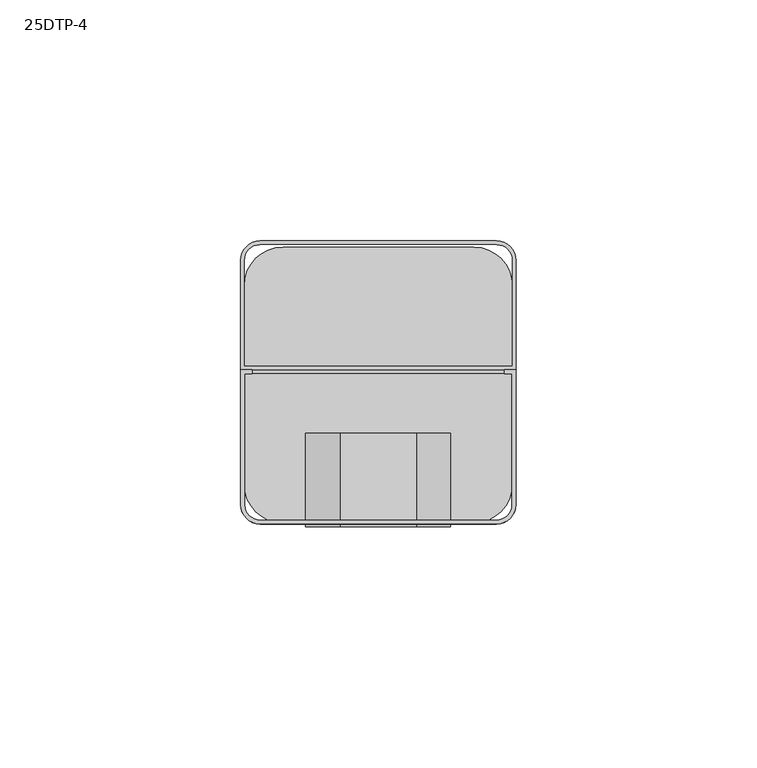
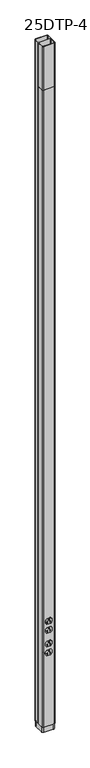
"""IFC4 building model written with IfcOpenShell, lengths in millimetres: proxy geometry, Vertical_Drop_Poles-Wiremold-Steel_Tele-Power_Pole : 25DTP-4."""

from ifc_helpers import new_model, si_unit, point, frame, frame_2d, origin, origin_with_axes, place, context, project, spatial, polyline, circle_curve, trimmed, segment, composite_curve, outline, extrude, source, transform, mapped, element, save


def proxy_25dtp_4_c8c4ca56(model_context):
    return source(origin(), model_context, "Body", "SweptSolid", [
        extrude(outline(composite_curve([segment(polyline([(28.575, 31.25), (28.575, 3.25)]), True, "CONTINUOUS"), segment(trimmed(circle_curve(frame_2d((24.575, 3.25)), 4.0), [point((28.575, 3.25))], [point((24.575, -0.75))], False, "CARTESIAN"), True, "CONTINUOUS"), segment(polyline([(24.575, -0.75), (-24.575, -0.75)]), True, "CONTINUOUS"), segment(trimmed(circle_curve(frame_2d((-24.575, 3.25)), 4.0), [point((-24.575, -0.75))], [point((-28.575, 3.25))], False, "CARTESIAN"), True, "CONTINUOUS"), segment(polyline([(-28.575, 3.25), (-28.575, 31.25), (-26.1875, 31.25), (-26.1875, 30.45), (-27.775, 30.45), (-27.775, 3.25)]), True, "CONTINUOUS"), segment(trimmed(circle_curve(frame_2d((-24.575, 3.25)), 3.2), [point((-27.775, 3.25))], [point((-24.575, 0.05))], True, "CARTESIAN"), True, "CONTINUOUS"), segment(polyline([(-24.575, 0.05), (24.575, 0.05)]), True, "CONTINUOUS"), segment(trimmed(circle_curve(frame_2d((24.575, 3.25)), 3.2), [point((24.575, 0.05))], [point((27.775, 3.25))], True, "CARTESIAN"), True, "CONTINUOUS"), segment(polyline([(27.775, 3.25), (27.775, 30.45), (26.1875, 30.45), (26.1875, 31.25), (28.575, 31.25)]), True, "CONTINUOUS")], self_intersect=False)), frame((0.0, 0.0, 2971.8), z_axis=(0.0, 0.0, 1.0), x_axis=(1.0, 0.0, 0.0)), (0.0, 0.0, 1.0), 203.2),
        extrude(outline(composite_curve([segment(trimmed(circle_curve(frame_2d((488.7029331, -1.1591271)), 13.933707), [point((500.85, -7.9853234))], [point((488.7029331, -15.092834))], False, "CARTESIAN"), True, "CONTINUOUS"), segment(polyline([(488.7029331, -15.092834), (486.7854081, -15.092834)]), True, "CONTINUOUS"), segment(trimmed(circle_curve(frame_2d((486.7854081, -0.9909304)), 14.1019036), [point((486.7854081, -15.092834))], [point((474.85, -8.5015708))], False, "CARTESIAN"), True, "CONTINUOUS"), segment(polyline([(474.85, -8.5015708), (474.85, 8.5041234)]), True, "CONTINUOUS"), segment(trimmed(circle_curve(frame_2d((486.6576313, 0.982166)), 14.0), [point((474.85, 8.5041234))], [point((486.6576313, 14.982166))], False, "CARTESIAN"), True, "CONTINUOUS"), segment(polyline([(486.6576313, 14.982166), (488.7451343, 14.982166)]), True, "CONTINUOUS"), segment(trimmed(circle_curve(frame_2d((488.7451343, 0.9958893)), 13.9862766), [point((488.7451343, 14.982166))], [point((500.85, 8.0021838))], False, "CARTESIAN"), True, "CONTINUOUS"), segment(polyline([(500.85, 8.0021838), (500.85, -7.9853234)]), True, "CONTINUOUS")], self_intersect=False), holes=[polyline([(486.9892021, -5.530934), (479.0517021, -5.530934), (479.0517021, -7.1202895), (486.9892021, -7.1202895), (486.9892021, -5.530934)]), polyline([(479.8454521, 5.29348), (486.1954521, 5.29348), (486.1954521, 6.8797105), (479.8454521, 6.8797105), (479.8454521, 5.29348)]), composite_curve([segment(polyline([(497.4329521, 2.240599), (494.2579521, 2.240599)]), True, "CONTINUOUS"), segment(trimmed(circle_curve(frame_2d((494.2579521, -0.140651)), 2.38125), [point((494.2579521, 2.240599))], [point((494.2579521, -2.521901))], True, "CARTESIAN"), True, "CONTINUOUS"), segment(polyline([(494.2579521, -2.521901), (497.4329521, -2.521901), (497.4329521, 2.240599)]), True, "CONTINUOUS")], self_intersect=False)]), frame((0.0, -0.8603814, 0.0), z_axis=(0.0, 1.0, 0.0), x_axis=(0.0, 0.0, 1.0)), (0.0, 0.0, 1.0), 19.3625),
        extrude(outline(composite_curve([segment(polyline([(459.05, 8.7098868), (459.05, -8.7111214)]), True, "CONTINUOUS"), segment(trimmed(circle_curve(frame_2d((447.3453879, -1.1683429)), 13.9244911), [point((459.05, -8.7111214))], [point((447.3453879, -15.092834))], False, "CARTESIAN"), True, "CONTINUOUS"), segment(polyline([(447.3453879, -15.092834), (445.4207127, -15.092834)]), True, "CONTINUOUS"), segment(trimmed(circle_curve(frame_2d((445.4207127, -0.9820385)), 14.1107955), [point((445.4207127, -15.092834))], [point((433.05, -7.7702649))], False, "CARTESIAN"), True, "CONTINUOUS"), segment(polyline([(433.05, -7.7702649), (433.05, 7.7817126)]), True, "CONTINUOUS"), segment(trimmed(circle_curve(frame_2d((445.293109, 0.9733088)), 14.0088572), [point((433.05, 7.7817126))], [point((445.293109, 14.982166))], False, "CARTESIAN"), True, "CONTINUOUS"), segment(polyline([(445.293109, 14.982166), (447.3875692, 14.982166)]), True, "CONTINUOUS"), segment(trimmed(circle_curve(frame_2d((447.3875692, 1.0036923)), 13.9784736), [point((447.3875692, 14.982166))], [point((459.05, 8.7098868))], False, "CARTESIAN"), True, "CONTINUOUS")], self_intersect=False), holes=[polyline([(445.5892021, -5.6947448), (437.6517021, -5.6947448), (437.6517021, -7.2841003), (445.5892021, -7.2841003), (445.5892021, -5.6947448)]), polyline([(438.4454521, 5.29348), (444.7954521, 5.29348), (444.7954521, 6.8797105), (438.4454521, 6.8797105), (438.4454521, 5.29348)]), composite_curve([segment(polyline([(456.0329521, 2.240599), (452.8579521, 2.240599)]), True, "CONTINUOUS"), segment(trimmed(circle_curve(frame_2d((452.8579521, -0.140651)), 2.38125), [point((452.8579521, 2.240599))], [point((452.8579521, -2.521901))], True, "CARTESIAN"), True, "CONTINUOUS"), segment(polyline([(452.8579521, -2.521901), (456.0329521, -2.521901), (456.0329521, 2.240599)]), True, "CONTINUOUS")], self_intersect=False)]), frame((0.0, -0.8603814, 0.0), z_axis=(0.0, 1.0, 0.0), x_axis=(0.0, 0.0, 1.0)), (0.0, 0.0, 1.0), 19.3625),
        extrude(outline(composite_curve([segment(trimmed(circle_curve(frame_2d((19.825, 49.2375)), 8.0), [point((19.825, 57.2375))], [point((27.825, 49.2375))], False, "CARTESIAN"), True, "CONTINUOUS"), segment(polyline([(27.825, 49.2375), (27.825, 8.0)]), True, "CONTINUOUS"), segment(trimmed(circle_curve(frame_2d((19.825, 8.0)), 8.0), [point((27.825, 8.0))], [point((19.825, 0.0))], False, "CARTESIAN"), True, "CONTINUOUS"), segment(polyline([(19.825, 0.0), (-19.825, 0.0)]), True, "CONTINUOUS"), segment(trimmed(circle_curve(frame_2d((-19.825, 8.0)), 8.0), [point((-19.825, 0.0))], [point((-27.825, 8.0))], False, "CARTESIAN"), True, "CONTINUOUS"), segment(polyline([(-27.825, 8.0), (-27.825, 49.2375)]), True, "CONTINUOUS"), segment(trimmed(circle_curve(frame_2d((-19.825, 49.2375)), 8.0), [point((-27.825, 49.2375))], [point((-19.825, 57.2375))], False, "CARTESIAN"), True, "CONTINUOUS"), segment(polyline([(-19.825, 57.2375), (19.825, 57.2375)]), True, "CONTINUOUS")], self_intersect=False)), frame((0.0, 0.0, -25.4), z_axis=(0.0, 0.0, 1.0), x_axis=(1.0, 0.0, 0.0)), (0.0, 0.0, 1.0), 25.4),
        extrude(outline(composite_curve([segment(trimmed(circle_curve(frame_2d((383.7576838, -0.8922297)), 13.9907186), [point((395.85, -7.9289972))], [point((383.7576838, -14.8829484))], False, "CARTESIAN"), True, "CONTINUOUS"), segment(polyline([(383.7576838, -14.8829484), (381.7241422, -14.8829484)]), True, "CONTINUOUS"), segment(trimmed(circle_curve(frame_2d((381.7241422, -0.7955272)), 14.0874212), [point((381.7241422, -14.8829484))], [point((369.85, -8.3757767))], False, "CARTESIAN"), True, "CONTINUOUS"), segment(polyline([(369.85, -8.3757767), (369.85, 8.3803147)]), True, "CONTINUOUS"), segment(trimmed(circle_curve(frame_2d((381.5972441, 0.7899761)), 13.9860997), [point((369.85, 8.3803147))], [point((381.5972441, 14.7760758))], False, "CARTESIAN"), True, "CONTINUOUS"), segment(polyline([(381.5972441, 14.7760758), (383.8021914, 14.7760758)]), True, "CONTINUOUS"), segment(trimmed(circle_curve(frame_2d((383.8021914, 0.7346672)), 14.0414086), [point((383.8021914, 14.7760758))], [point((395.85, 7.9465645))], False, "CARTESIAN"), True, "CONTINUOUS"), segment(polyline([(395.85, 7.9465645), (395.85, -7.9289972)]), True, "CONTINUOUS")], self_intersect=False), holes=[polyline([(382.0039761, -5.530934), (374.0664761, -5.530934), (374.0664761, -7.1202895), (382.0039761, -7.1202895), (382.0039761, -5.530934)]), polyline([(374.8602261, 5.29348), (381.2102261, 5.29348), (381.2102261, 6.8797105), (374.8602261, 6.8797105), (374.8602261, 5.29348)]), composite_curve([segment(polyline([(392.4477261, 2.240599), (389.2727261, 2.240599)]), True, "CONTINUOUS"), segment(trimmed(circle_curve(frame_2d((389.2727261, -0.140651)), 2.38125), [point((389.2727261, 2.240599))], [point((389.2727261, -2.521901))], True, "CARTESIAN"), True, "CONTINUOUS"), segment(polyline([(389.2727261, -2.521901), (392.4477261, -2.521901), (392.4477261, 2.240599)]), True, "CONTINUOUS")], self_intersect=False)]), frame((0.0, -0.8603814, 0.0), z_axis=(0.0, 1.0, 0.0), x_axis=(0.0, 0.0, 1.0)), (0.0, 0.0, 1.0), 19.3625),
        extrude(outline(composite_curve([segment(polyline([(354.05, 8.732199), (354.05, -8.7339979)]), True, "CONTINUOUS"), segment(trimmed(circle_curve(frame_2d((342.490781, -1.0863882)), 13.8600678), [point((354.05, -8.7339979))], [point((342.490781, -14.946456))], False, "CARTESIAN"), True, "CONTINUOUS"), segment(polyline([(342.490781, -14.946456), (340.4289854, -14.946456)]), True, "CONTINUOUS"), segment(trimmed(circle_curve(frame_2d((340.4289854, -0.6843086)), 14.2621474), [point((340.4289854, -14.946456))], [point((328.05, -7.7673565))], False, "CARTESIAN"), True, "CONTINUOUS"), segment(polyline([(328.05, -7.7673565), (328.05, 7.7787932)]), True, "CONTINUOUS"), segment(trimmed(circle_curve(frame_2d((340.3005157, 0.6795122)), 14.1589168), [point((328.05, 7.7787932))], [point((340.3005157, 14.838429))], False, "CARTESIAN"), True, "CONTINUOUS"), segment(polyline([(340.3005157, 14.838429), (342.5323407, 14.838429)]), True, "CONTINUOUS"), segment(trimmed(circle_curve(frame_2d((342.5323407, 0.9229263)), 13.9155027), [point((342.5323407, 14.838429))], [point((354.05, 8.732199))], False, "CARTESIAN"), True, "CONTINUOUS")], self_intersect=False), holes=[polyline([(340.6039761, -5.6947448), (332.6664761, -5.6947448), (332.6664761, -7.2841003), (340.6039761, -7.2841003), (340.6039761, -5.6947448)]), polyline([(333.4602261, 5.29348), (339.8102261, 5.29348), (339.8102261, 6.8797105), (333.4602261, 6.8797105), (333.4602261, 5.29348)]), composite_curve([segment(polyline([(351.0477261, 2.240599), (347.8727261, 2.240599)]), True, "CONTINUOUS"), segment(trimmed(circle_curve(frame_2d((347.8727261, -0.140651)), 2.38125), [point((347.8727261, 2.240599))], [point((347.8727261, -2.521901))], True, "CARTESIAN"), True, "CONTINUOUS"), segment(polyline([(347.8727261, -2.521901), (351.0477261, -2.521901), (351.0477261, 2.240599)]), True, "CONTINUOUS")], self_intersect=False)]), frame((0.0, -0.8603814, 0.0), z_axis=(0.0, 1.0, 0.0), x_axis=(0.0, 0.0, 1.0)), (0.0, 0.0, 1.0), 19.3625),
        extrude(outline(composite_curve([segment(trimmed(circle_curve(frame_2d((24.575, 53.9875)), 4.0), [point((24.575, 57.9875))], [point((28.575, 53.9875))], False, "CARTESIAN"), True, "CONTINUOUS"), segment(polyline([(28.575, 53.9875), (28.575, 31.25), (-28.575, 31.25), (-28.575, 53.9875)]), True, "CONTINUOUS"), segment(trimmed(circle_curve(frame_2d((-24.575, 53.9875)), 4.0), [point((-28.575, 53.9875))], [point((-24.575, 57.9875))], False, "CARTESIAN"), True, "CONTINUOUS"), segment(polyline([(-24.575, 57.9875), (24.575, 57.9875)]), True, "CONTINUOUS")], self_intersect=False), holes=[composite_curve([segment(polyline([(27.775, 32.05), (27.775, 53.9875)]), True, "CONTINUOUS"), segment(trimmed(circle_curve(frame_2d((24.575, 53.9875)), 3.2), [point((27.775, 53.9875))], [point((24.575, 57.1875))], True, "CARTESIAN"), True, "CONTINUOUS"), segment(polyline([(24.575, 57.1875), (-24.575, 57.1875)]), True, "CONTINUOUS"), segment(trimmed(circle_curve(frame_2d((-24.575, 53.9875)), 3.2), [point((-24.575, 57.1875))], [point((-27.775, 53.9875))], True, "CARTESIAN"), True, "CONTINUOUS"), segment(polyline([(-27.775, 53.9875), (-27.775, 32.05), (27.775, 32.05)]), True, "CONTINUOUS")], self_intersect=False)]), origin_with_axes(), (0.0, 0.0, 1.0), 3175.0),
        extrude(outline(composite_curve([segment(polyline([(28.575, 31.25), (28.575, 3.25)]), True, "CONTINUOUS"), segment(trimmed(circle_curve(frame_2d((24.575, 3.25)), 4.0), [point((28.575, 3.25))], [point((24.575, -0.75))], False, "CARTESIAN"), True, "CONTINUOUS"), segment(polyline([(24.575, -0.75), (-24.575, -0.75)]), True, "CONTINUOUS"), segment(trimmed(circle_curve(frame_2d((-24.575, 3.25)), 4.0), [point((-24.575, -0.75))], [point((-28.575, 3.25))], False, "CARTESIAN"), True, "CONTINUOUS"), segment(polyline([(-28.575, 3.25), (-28.575, 31.25), (28.575, 31.25)]), True, "CONTINUOUS")], self_intersect=False), holes=[composite_curve([segment(polyline([(-27.775, 30.45), (-27.775, 3.25)]), True, "CONTINUOUS"), segment(trimmed(circle_curve(frame_2d((-24.575, 3.25)), 3.2), [point((-27.775, 3.25))], [point((-24.575, 0.05))], True, "CARTESIAN"), True, "CONTINUOUS"), segment(polyline([(-24.575, 0.05), (24.575, 0.05)]), True, "CONTINUOUS"), segment(trimmed(circle_curve(frame_2d((24.575, 3.25)), 3.2), [point((24.575, 0.05))], [point((27.775, 3.25))], True, "CARTESIAN"), True, "CONTINUOUS"), segment(polyline([(27.775, 3.25), (27.775, 30.45), (-27.775, 30.45)]), True, "CONTINUOUS")], self_intersect=False)]), origin_with_axes(), (0.0, 0.0, 1.0), 2971.8),
    ])


if __name__ == "__main__":
    model = new_model("IFC4")
    model_context = context("Model", 3, world=origin())
    ifc_project = project(units=[si_unit("LENGTHUNIT", "METRE", prefix="MILLI")], contexts=[model_context])
    site = spatial("IfcSite", under=ifc_project)
    building = spatial("IfcBuilding", under=site)
    placement = place(None, origin())
    proxy_25dtp_4_shape = proxy_25dtp_4_c8c4ca56(model_context)
    element("IfcBuildingElementProxy", 1, Name="Vertical_Drop_Poles-Wiremold-Steel_Tele-Power_Pole : 25DTP-4", ObjectType="Vertical_Drop_Poles-Wiremold-Steel_Tele-Power_Pole : 25DTP-4", at=placement, inside=building, context=model_context, shape_type="MappedRepresentation", body=[
        mapped(proxy_25dtp_4_shape, transform((0.0, 0.0, 0.0), x_axis=(1.0, 0.0, 0.0), y_axis=(0.0, 1.0, 0.0), z_axis=(0.0, 0.0, 1.0))),
    ])
    save(model, "model.ifc")
